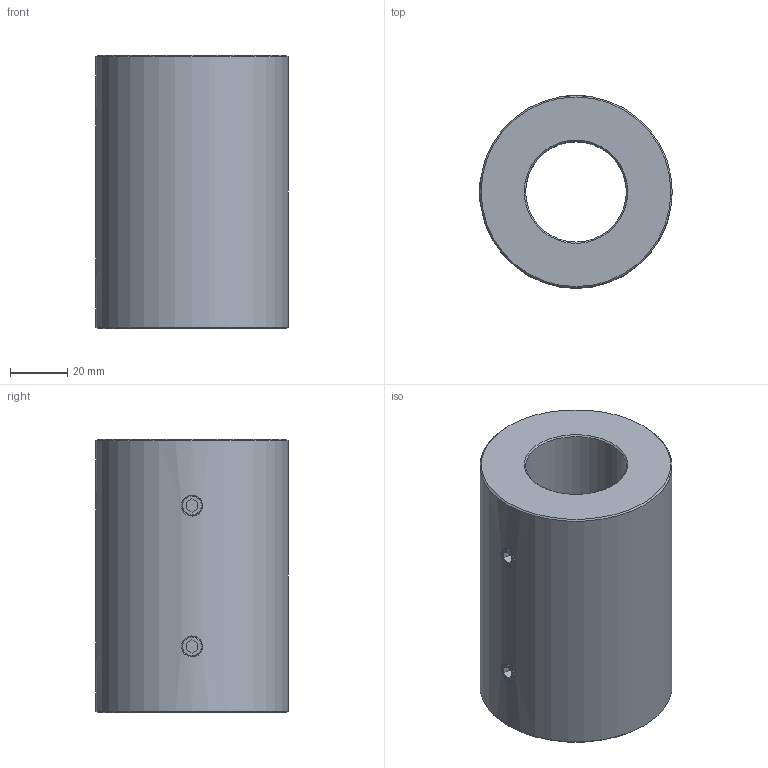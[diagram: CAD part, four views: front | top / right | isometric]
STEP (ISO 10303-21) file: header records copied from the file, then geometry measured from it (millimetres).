
FILE_DESCRIPTION (( 'STEP AP214' ), '1' );
FILE_NAME ('KBST1-VA-35.STEP', '2025-07-29T07:12:38', ( '' ), ( '' ), 'SwSTEP 2.0', 'SolidWorks 2024', '' );
FILE_SCHEMA (( 'AUTOMOTIVE_DESIGN' ));
Length unit declared in the file: millimetre
Products named in the file (1): KBST1-VA-35
Bounding box: 67 x 67 x 95 mm (x, y, z)
Volume: 240068.8 mm3; surface area: 37866 mm2
Topology: 5 solids, 5 shells, 80 faces, 178 edges, 104 vertices
Faces by surface type: plane 34, cone 28, cylinder 14, bspline 4
Full cylindrical faces by diameter (mm): 6.8 x4, 35 x1, 67 x1
Entity records: 8255 total; most frequent: CARTESIAN_POINT 5633, DIRECTION 338, ORIENTED_EDGE 312, EDGE_CURVE 156, AXIS2_PLACEMENT_3D 117, EDGE_LOOP 108, VERTEX_POINT 104, VECTOR 104
